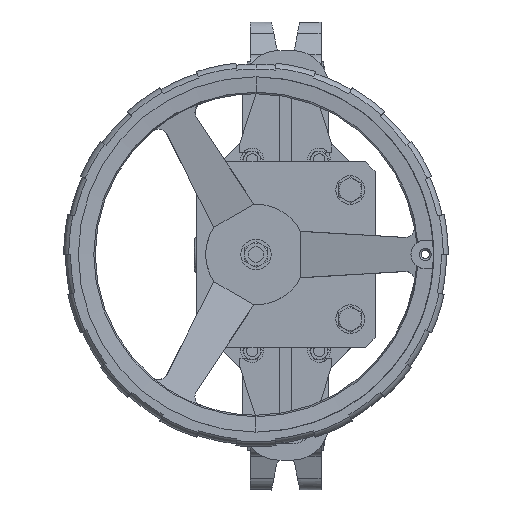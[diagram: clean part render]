
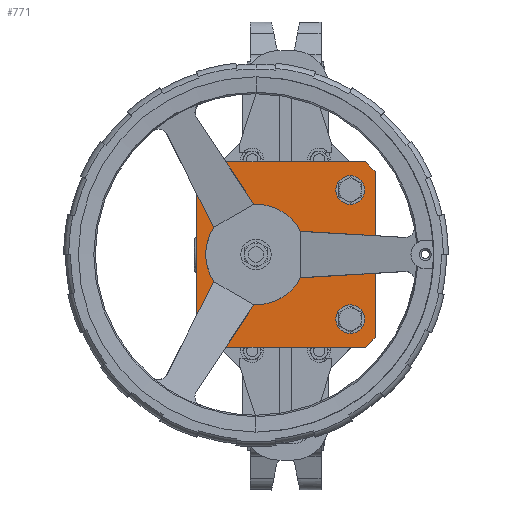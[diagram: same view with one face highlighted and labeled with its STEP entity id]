
A CAD part, top view. The second image highlights one B-rep face of the part: STEP entity #771.
In plain terms, the highlighted planar face has unit normal (0, 0, 1).
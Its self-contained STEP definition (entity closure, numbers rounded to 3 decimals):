
#771=ADVANCED_FACE('',(#2560,#2561,#2562,#2563,#2564,#2565),#2566,.F.);
#2560=FACE_BOUND('',#6030,.T.);
#2561=FACE_BOUND('',#6031,.T.);
#2562=FACE_OUTER_BOUND('',#6032,.T.);
#2563=FACE_BOUND('',#6033,.T.);
#2564=FACE_BOUND('',#6034,.T.);
#2565=FACE_BOUND('',#6035,.T.);
#2566=PLANE('',#6036);
#6030=EDGE_LOOP('',(#13709,#13710));
#6031=EDGE_LOOP('',(#13711,#13712));
#6032=EDGE_LOOP('',(#13713,#13714,#13715,#13716,#13717,#13718,#13719,#13720));
#6033=EDGE_LOOP('',(#13721,#13722));
#6034=EDGE_LOOP('',(#13723,#13724));
#6035=EDGE_LOOP('',(#13725,#13726));
#6036=AXIS2_PLACEMENT_3D('',#13727,#13728,#13729);
#13709=ORIENTED_EDGE('',*,*,#22473,.T.);
#13710=ORIENTED_EDGE('',*,*,#23489,.T.);
#13711=ORIENTED_EDGE('',*,*,#22415,.T.);
#13712=ORIENTED_EDGE('',*,*,#23490,.T.);
#13713=ORIENTED_EDGE('',*,*,#23491,.F.);
#13714=ORIENTED_EDGE('',*,*,#23492,.T.);
#13715=ORIENTED_EDGE('',*,*,#23493,.F.);
#13716=ORIENTED_EDGE('',*,*,#23494,.T.);
#13717=ORIENTED_EDGE('',*,*,#23495,.F.);
#13718=ORIENTED_EDGE('',*,*,#23496,.T.);
#13719=ORIENTED_EDGE('',*,*,#23497,.F.);
#13720=ORIENTED_EDGE('',*,*,#23498,.T.);
#13721=ORIENTED_EDGE('',*,*,#22403,.T.);
#13722=ORIENTED_EDGE('',*,*,#23499,.T.);
#13723=ORIENTED_EDGE('',*,*,#22510,.T.);
#13724=ORIENTED_EDGE('',*,*,#23500,.T.);
#13725=ORIENTED_EDGE('',*,*,#22648,.F.);
#13726=ORIENTED_EDGE('',*,*,#23501,.F.);
#13727=CARTESIAN_POINT('',(-93.5,-97.,794.5));
#13728=DIRECTION('',(0.,0.,-1.));
#13729=DIRECTION('',(0.,1.,0.));
#22403=EDGE_CURVE('',#27023,#27020,#27024,.T.);
#22415=EDGE_CURVE('',#27047,#27044,#27048,.T.);
#22473=EDGE_CURVE('',#27157,#27154,#27158,.T.);
#22510=EDGE_CURVE('',#27231,#27228,#27232,.T.);
#22648=EDGE_CURVE('',#27497,#27500,#27501,.T.);
#23489=EDGE_CURVE('',#27154,#27157,#29015,.T.);
#23490=EDGE_CURVE('',#27044,#27047,#29016,.T.);
#23491=EDGE_CURVE('',#29017,#29018,#29019,.T.);
#23492=EDGE_CURVE('',#29017,#29020,#29021,.T.);
#23493=EDGE_CURVE('',#29022,#29020,#29023,.T.);
#23494=EDGE_CURVE('',#29022,#29024,#29025,.T.);
#23495=EDGE_CURVE('',#29026,#29024,#29027,.T.);
#23496=EDGE_CURVE('',#29026,#29028,#29029,.T.);
#23497=EDGE_CURVE('',#29030,#29028,#29031,.T.);
#23498=EDGE_CURVE('',#29030,#29018,#29032,.T.);
#23499=EDGE_CURVE('',#27020,#27023,#29033,.T.);
#23500=EDGE_CURVE('',#27228,#27231,#29034,.T.);
#23501=EDGE_CURVE('',#27500,#27497,#29035,.T.);
#27020=VERTEX_POINT('',#33829);
#27023=VERTEX_POINT('',#33833);
#27024=CIRCLE('',#33834,15.);
#27044=VERTEX_POINT('',#33859);
#27047=VERTEX_POINT('',#33863);
#27048=CIRCLE('',#33864,15.);
#27154=VERTEX_POINT('',#34001);
#27157=VERTEX_POINT('',#34005);
#27158=CIRCLE('',#34006,15.);
#27228=VERTEX_POINT('',#34118);
#27231=VERTEX_POINT('',#34122);
#27232=CIRCLE('',#34123,15.);
#27497=VERTEX_POINT('',#34576);
#27500=VERTEX_POINT('',#34580);
#27501=CIRCLE('',#34581,27.5);
#29015=CIRCLE('',#38133,15.);
#29016=CIRCLE('',#38134,15.);
#29017=VERTEX_POINT('',#38135);
#29018=VERTEX_POINT('',#38136);
#29019=LINE('',#38137,#38138);
#29020=VERTEX_POINT('',#38139);
#29021=LINE('',#38140,#38141);
#29022=VERTEX_POINT('',#38142);
#29023=LINE('',#38143,#38144);
#29024=VERTEX_POINT('',#38145);
#29025=LINE('',#38146,#38147);
#29026=VERTEX_POINT('',#38148);
#29027=LINE('',#38149,#38150);
#29028=VERTEX_POINT('',#38151);
#29029=LINE('',#38152,#38153);
#29030=VERTEX_POINT('',#38154);
#29031=LINE('',#38155,#38156);
#29032=LINE('',#38157,#38158);
#29033=CIRCLE('',#38159,15.);
#29034=CIRCLE('',#38160,15.);
#29035=CIRCLE('',#38161,27.5);
#33829=CARTESIAN_POINT('',(67.5,82.5,794.5));
#33833=CARTESIAN_POINT('',(67.5,52.5,794.5));
#33834=AXIS2_PLACEMENT_3D('',#46477,#46478,#46479);
#33859=CARTESIAN_POINT('',(67.5,-52.5,794.5));
#33863=CARTESIAN_POINT('',(67.5,-82.5,794.5));
#33864=AXIS2_PLACEMENT_3D('',#46501,#46502,#46503);
#34001=CARTESIAN_POINT('',(-67.5,82.5,794.5));
#34005=CARTESIAN_POINT('',(-67.5,52.5,794.5));
#34006=AXIS2_PLACEMENT_3D('',#46618,#46619,#46620);
#34118=CARTESIAN_POINT('',(-67.5,-52.5,794.5));
#34122=CARTESIAN_POINT('',(-67.5,-82.5,794.5));
#34123=AXIS2_PLACEMENT_3D('',#46687,#46688,#46689);
#34576=CARTESIAN_POINT('',(-58.5,0.,794.5));
#34580=CARTESIAN_POINT('',(-3.5,0.,794.5));
#34581=AXIS2_PLACEMENT_3D('',#46948,#46949,#46950);
#38133=AXIS2_PLACEMENT_3D('',#48295,#48296,#48297);
#38134=AXIS2_PLACEMENT_3D('',#48298,#48299,#48300);
#38135=CARTESIAN_POINT('',(-93.5,-87.,794.5));
#38136=CARTESIAN_POINT('',(-93.5,87.,794.5));
#38137=CARTESIAN_POINT('',(-93.5,-97.,794.5));
#38138=VECTOR('',#48301,1000.);
#38139=CARTESIAN_POINT('',(-83.5,-97.,794.5));
#38140=CARTESIAN_POINT('',(-93.5,-87.,794.5));
#38141=VECTOR('',#48302,1000.);
#38142=CARTESIAN_POINT('',(83.5,-97.,794.5));
#38143=CARTESIAN_POINT('',(93.5,-97.,794.5));
#38144=VECTOR('',#48303,1000.);
#38145=CARTESIAN_POINT('',(93.5,-87.,794.5));
#38146=CARTESIAN_POINT('',(83.5,-97.,794.5));
#38147=VECTOR('',#48304,1000.);
#38148=CARTESIAN_POINT('',(93.5,87.,794.5));
#38149=CARTESIAN_POINT('',(93.5,97.,794.5));
#38150=VECTOR('',#48305,1000.);
#38151=CARTESIAN_POINT('',(83.5,97.,794.5));
#38152=CARTESIAN_POINT('',(93.5,87.,794.5));
#38153=VECTOR('',#48306,1000.);
#38154=CARTESIAN_POINT('',(-83.5,97.,794.5));
#38155=CARTESIAN_POINT('',(-93.5,97.,794.5));
#38156=VECTOR('',#48307,1000.);
#38157=CARTESIAN_POINT('',(-83.5,97.,794.5));
#38158=VECTOR('',#48308,1000.);
#38159=AXIS2_PLACEMENT_3D('',#48309,#48310,#48311);
#38160=AXIS2_PLACEMENT_3D('',#48312,#48313,#48314);
#38161=AXIS2_PLACEMENT_3D('',#48315,#48316,#48317);
#46477=CARTESIAN_POINT('',(67.5,67.5,794.5));
#46478=DIRECTION('',(0.,0.,-1.));
#46479=DIRECTION('',(0.,-1.,0.));
#46501=CARTESIAN_POINT('',(67.5,-67.5,794.5));
#46502=DIRECTION('',(0.,0.,-1.));
#46503=DIRECTION('',(0.,-1.,0.));
#46618=CARTESIAN_POINT('',(-67.5,67.5,794.5));
#46619=DIRECTION('',(0.,0.,-1.));
#46620=DIRECTION('',(0.,-1.,0.));
#46687=CARTESIAN_POINT('',(-67.5,-67.5,794.5));
#46688=DIRECTION('',(0.,0.,-1.));
#46689=DIRECTION('',(0.,-1.,0.));
#46948=CARTESIAN_POINT('',(-31.,0.,794.5));
#46949=DIRECTION('',(0.,0.,1.));
#46950=DIRECTION('',(-1.,0.,0.));
#48295=CARTESIAN_POINT('',(-67.5,67.5,794.5));
#48296=DIRECTION('',(0.,0.,-1.));
#48297=DIRECTION('',(0.,-1.,0.));
#48298=CARTESIAN_POINT('',(67.5,-67.5,794.5));
#48299=DIRECTION('',(0.,0.,-1.));
#48300=DIRECTION('',(0.,-1.,0.));
#48301=DIRECTION('',(0.,1.,0.));
#48302=DIRECTION('',(0.707,-0.707,0.));
#48303=DIRECTION('',(-1.,0.,0.));
#48304=DIRECTION('',(0.707,0.707,0.));
#48305=DIRECTION('',(0.,-1.,0.));
#48306=DIRECTION('',(-0.707,0.707,0.));
#48307=DIRECTION('',(1.,0.,0.));
#48308=DIRECTION('',(-0.707,-0.707,0.));
#48309=CARTESIAN_POINT('',(67.5,67.5,794.5));
#48310=DIRECTION('',(0.,0.,-1.));
#48311=DIRECTION('',(0.,-1.,0.));
#48312=CARTESIAN_POINT('',(-67.5,-67.5,794.5));
#48313=DIRECTION('',(0.,0.,-1.));
#48314=DIRECTION('',(0.,-1.,0.));
#48315=CARTESIAN_POINT('',(-31.,0.,794.5));
#48316=DIRECTION('',(0.,0.,1.));
#48317=DIRECTION('',(-1.,0.,0.));
